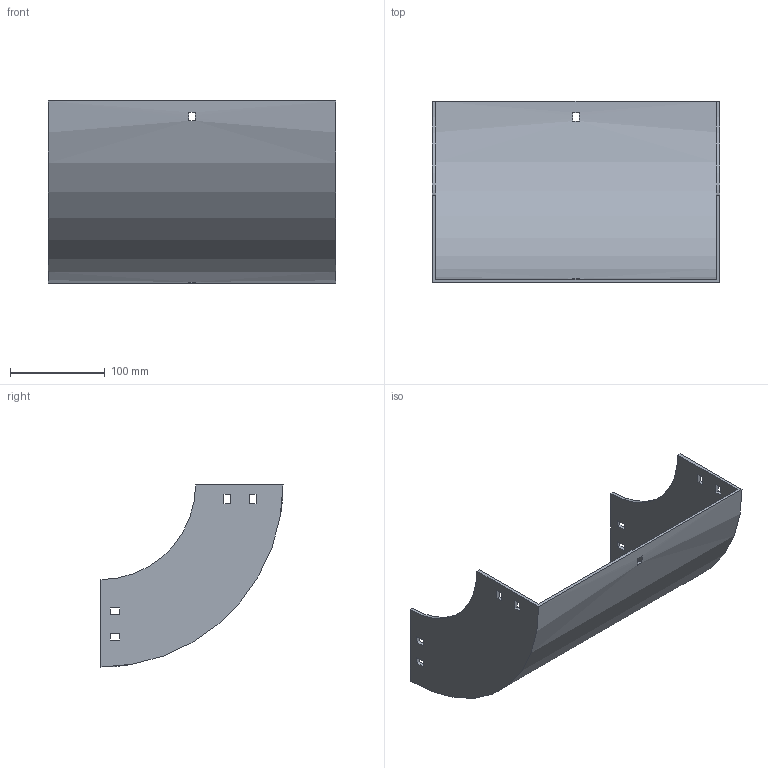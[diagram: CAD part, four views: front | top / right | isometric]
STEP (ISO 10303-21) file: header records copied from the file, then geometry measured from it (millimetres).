
FILE_DESCRIPTION (( 'STEP AP214' ), '1' );
FILE_NAME ('30B1I300.step', '2025-02-21T09:51:24', ( '' ), ( '' ), 'SwSTEP 2.0', 'SolidWorks 2023', '' );
FILE_SCHEMA (( 'AUTOMOTIVE_DESIGN' ));
Length unit declared in the file: millimetre
Products named in the file (1): 30B1I300
Bounding box: 304 x 192.5 x 192.5 mm (x, y, z)
Volume: 457843.2 mm3; surface area: 267287.3 mm2
Topology: 1 solids, 1 shells, 50 faces, 144 edges, 96 vertices
Faces by surface type: plane 46, cylinder 4
Entity records: 1687 total; most frequent: CARTESIAN_POINT 291, ORIENTED_EDGE 288, DIRECTION 262, EDGE_CURVE 144, VECTOR 128, LINE 128, VERTEX_POINT 96, EDGE_LOOP 70
